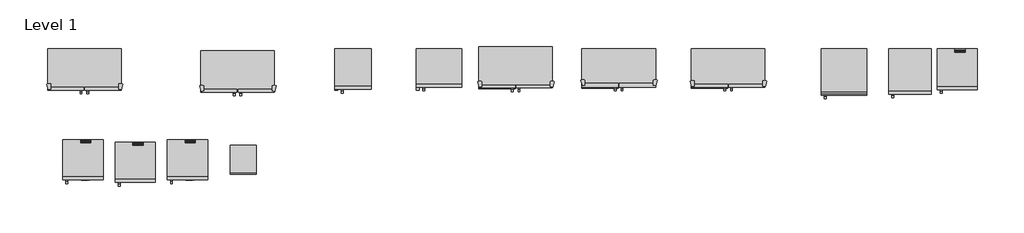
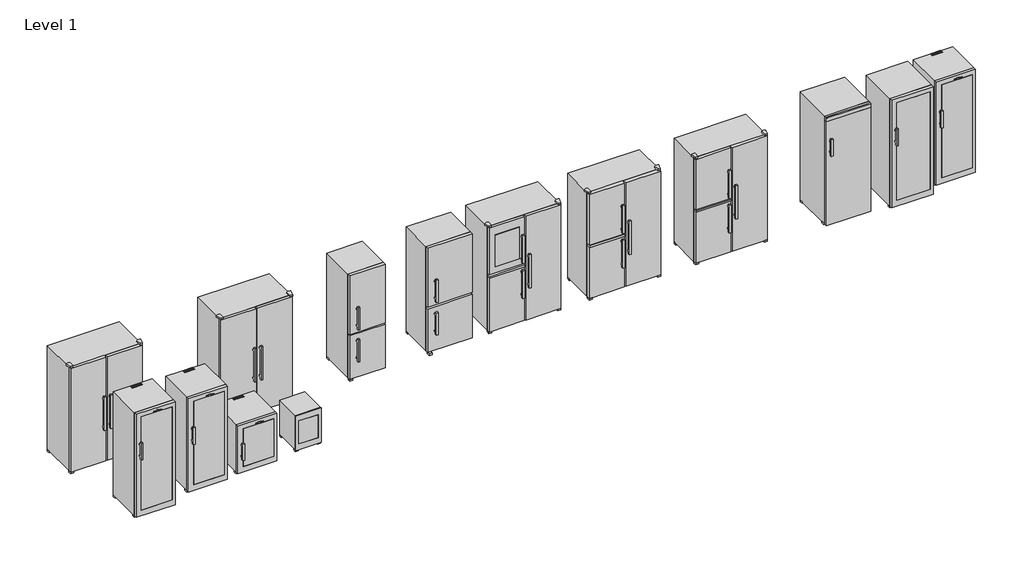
# One storey: 14 proxies.
"""IFC4 building model written with IfcOpenShell, lengths in millimetres."""

from ifc_helpers import new_model, si_unit, origin, place, context, project, spatial, transform, mapped, element, save
from components import specialty_equipment_39511ddc, specialty_equipment_d243509d, specialty_equipment_5408e7d3, specialty_equipment_ab0ed46c, specialty_equipment_bd1fe556, specialty_equipment_3c9227b6, specialty_equipment_b5ad8041, specialty_equipment_a9a47bf1, specialty_equipment_4a262d58, specialty_equipment_dc7cb6ab, specialty_equipment_9dc1592e, specialty_equipment_0e9e9f57, specialty_equipment_297d572d, specialty_equipment_43d568f8

model = new_model("IFC4")

# Units and contexts
model_context = context("Model", 3, world=origin())
ifc_project = project(units=[si_unit("LENGTHUNIT", "METRE", prefix="MILLI")], contexts=[model_context])

# Site, building, storey
site = spatial("IfcSite", under=ifc_project)
building = spatial("IfcBuilding", under=site)
storey = spatial("IfcBuildingStorey", under=building, Name="Level 1", Elevation=0.0)

# Proxies
placement = place(None, origin())
specialty_equipment_shape = specialty_equipment_39511ddc(model_context)
element("IfcBuildingElementProxy", 1, Name="CNef 4315, CNPef 4516 : CNef 4315", ObjectType="CNef 4315, CNPef 4516 : CNef 4315", at=placement, inside=storey, context=model_context, shape_type="MappedRepresentation", body=[
    mapped(specialty_equipment_shape, transform((4682.702638, 664.5560119, 0.0), x_axis=(1.0, 0.0, 0.0), y_axis=(0.0, 1.0, 0.0), z_axis=(0.0, 0.0, 1.0))),
])
specialty_equipment_2_shape = specialty_equipment_d243509d(model_context)
element("IfcBuildingElementProxy", 2, Name="CNef 4315, CNPef 4516 : CNPef 4516", ObjectType="CNef 4315, CNPef 4516 : CNPef 4516", at=placement, inside=storey, context=model_context, shape_type="MappedRepresentation", body=[
    mapped(specialty_equipment_2_shape, transform((6022.702638, 664.5560119, 0.0), x_axis=(1.0, 0.0, 0.0), y_axis=(0.0, 1.0, 0.0), z_axis=(0.0, 0.0, 1.0))),
])
specialty_equipment_3_shape = specialty_equipment_5408e7d3(model_context)
element("IfcBuildingElementProxy", 3, Name="SBSes 7252, SBef 7242 : SBSes 7252", ObjectType="SBSes 7252, SBef 7242 : SBSes 7252", at=placement, inside=storey, context=model_context, shape_type="MappedRepresentation", body=[
    mapped(specialty_equipment_3_shape, transform((-37.297362, 664.5560119, 0.0), x_axis=(1.0, 0.0, 0.0), y_axis=(0.0, 1.0, 0.0), z_axis=(0.0, 0.0, 1.0))),
])
specialty_equipment_4_shape = specialty_equipment_ab0ed46c(model_context)
element("IfcBuildingElementProxy", 4, Name="SBSes 7252, SBef 7242 : SBSef 7242", ObjectType="SBSes 7252, SBef 7242 : SBSef 7242", at=placement, inside=storey, context=model_context, shape_type="MappedRepresentation", body=[
    mapped(specialty_equipment_4_shape, transform((2482.702638, 634.7214813, 0.0), x_axis=(1.0, 0.0, 0.0), y_axis=(0.0, 1.0, 0.0), z_axis=(0.0, 0.0, 1.0))),
])
specialty_equipment_5_shape = specialty_equipment_bd1fe556(model_context)
element("IfcBuildingElementProxy", 5, Name="SBSbs 7353, SBSes 7353 : SBSbs 7353", ObjectType="SBSbs 7353, SBSes 7353 : SBSbs 7353", at=placement, inside=storey, context=model_context, shape_type="MappedRepresentation", body=[
    mapped(specialty_equipment_5_shape, transform((8750.8752505, 664.5560119, 0.0), x_axis=(1.0, 0.0, 0.0), y_axis=(0.0, 1.0, 0.0), z_axis=(0.0, 0.0, 1.0))),
])
specialty_equipment_6_shape = specialty_equipment_3c9227b6(model_context)
element("IfcBuildingElementProxy", 6, Name="SBSbs 7353, SBSes 7353 : SBSes 7353", ObjectType="SBSbs 7353, SBSes 7353 : SBSes 7353", at=placement, inside=storey, context=model_context, shape_type="MappedRepresentation", body=[
    mapped(specialty_equipment_6_shape, transform((10550.8752505, 664.5560119, 0.0), x_axis=(1.0, 0.0, 0.0), y_axis=(0.0, 1.0, 0.0), z_axis=(0.0, 0.0, 1.0))),
])
specialty_equipment_7_shape = specialty_equipment_b5ad8041(model_context)
element("IfcBuildingElementProxy", 7, Name="WKt 6451 : WKt 6451", ObjectType="WKt 6451 : WKt 6451", at=placement, inside=storey, context=model_context, shape_type="MappedRepresentation", body=[
    mapped(specialty_equipment_7_shape, transform((12685.781919, 664.5560119, -182.0), x_axis=(1.0, 0.0, 0.0), y_axis=(0.0, 1.0, 0.0), z_axis=(0.0, 0.0, 1.0))),
])
specialty_equipment_8_shape = specialty_equipment_a9a47bf1(model_context)
element("IfcBuildingElementProxy", 8, Name="WKb : WKb 4611", ObjectType="WKb : WKb 4611", at=placement, inside=storey, context=model_context, shape_type="MappedRepresentation", body=[
    mapped(specialty_equipment_8_shape, transform((215.7088759, -825.5850126, -261.0), x_axis=(1.0, 0.0, 0.0), y_axis=(0.0, 1.0, 0.0), z_axis=(0.0, 0.0, 1.0))),
])
specialty_equipment_9_shape = specialty_equipment_4a262d58(model_context)
element("IfcBuildingElementProxy", 9, Name="ZKes 453_136 : ZKes 453", ObjectType="ZKes 453_136 : ZKes 453", at=placement, inside=storey, context=model_context, shape_type="MappedRepresentation", body=[
    mapped(specialty_equipment_9_shape, transform((2969.5109483, -920.369614, -1313.0), x_axis=(1.0, 0.0, 0.0), y_axis=(0.0, 1.0, 0.0), z_axis=(0.0, 0.0, 1.0))),
])
specialty_equipment_10_shape = specialty_equipment_dc7cb6ab(model_context)
element("IfcBuildingElementProxy", 10, Name="Wkb 1712_049 : WKb 1712", ObjectType="Wkb 1712_049 : WKb 1712", at=placement, inside=storey, context=model_context, shape_type="MappedRepresentation", body=[
    mapped(specialty_equipment_10_shape, transform((1935.7088759, -825.5850126, -1075.0), x_axis=(1.0, 0.0, 0.0), y_axis=(0.0, 1.0, 0.0), z_axis=(0.0, 0.0, 1.0))),
])
specialty_equipment_11_shape = specialty_equipment_9dc1592e(model_context)
element("IfcBuildingElementProxy", 11, Name="Wkb 4112_049 : WKb 4112", ObjectType="Wkb 4112_049 : WKb 4112", at=placement, inside=storey, context=model_context, shape_type="MappedRepresentation", body=[
    mapped(specialty_equipment_11_shape, transform((1075.7088759, -865.5850126, -261.0), x_axis=(1.0, 0.0, 0.0), y_axis=(0.0, 1.0, 0.0), z_axis=(0.0, 0.0, 1.0))),
])
specialty_equipment_12_shape = specialty_equipment_0e9e9f57(model_context)
element("IfcBuildingElementProxy", 12, Name="Wkb 4612_049 : WKb 4612", ObjectType="Wkb 4612_049 : WKb 4612", at=placement, inside=storey, context=model_context, shape_type="MappedRepresentation", body=[
    mapped(specialty_equipment_12_shape, transform((14594.9217569, 664.5560119, -261.0), x_axis=(1.0, 0.0, 0.0), y_axis=(0.0, 1.0, 0.0), z_axis=(0.0, 0.0, 1.0))),
])
specialty_equipment_13_shape = specialty_equipment_297d572d(model_context)
element("IfcBuildingElementProxy", 13, Name="WTes 5872_136 : WTes 5872", ObjectType="WTes 5872_136 : WTes 5872", at=placement, inside=storey, context=model_context, shape_type="MappedRepresentation", body=[
    mapped(specialty_equipment_13_shape, transform((13798.557625, 664.5560119, -261.0), x_axis=(1.0, 0.0, 0.0), y_axis=(0.0, 1.0, 0.0), z_axis=(0.0, 0.0, 1.0))),
])
specialty_equipment_14_shape = specialty_equipment_43d568f8(model_context)
element("IfcBuildingElementProxy", 14, Name="SBSes 7165_049 : SBSes 7165", ObjectType="SBSes 7165_049 : SBSes 7165", at=placement, inside=storey, context=model_context, shape_type="MappedRepresentation", body=[
    mapped(specialty_equipment_14_shape, transform((7055.8752505, 704.5560119, 0.0), x_axis=(1.0, 0.0, 0.0), y_axis=(0.0, 1.0, 0.0), z_axis=(0.0, 0.0, 1.0))),
])

save(model, "model.ifc")
